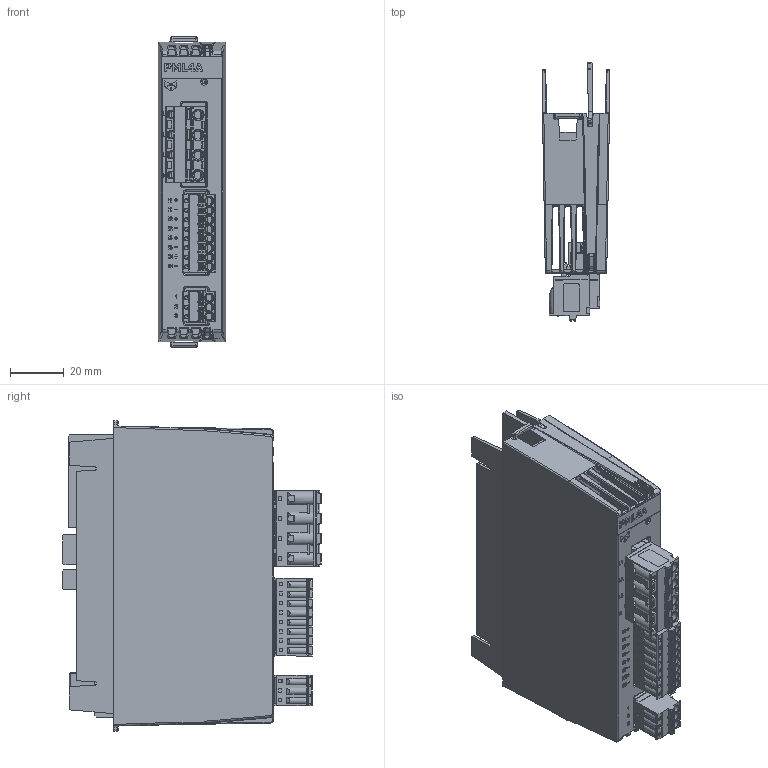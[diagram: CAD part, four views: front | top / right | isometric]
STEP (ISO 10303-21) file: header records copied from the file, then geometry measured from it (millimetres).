
FILE_DESCRIPTION(/* description */ (''),/* implementation_level */ '2;1');
FILE_NAME(/* name */ 'C:\Users\Public\Documents\Autodesk\Inventor 2023\PML4A_Simplified.stp',/* time_stamp */ '2024-10-18T22:49:00+02:00',/* author */ ('shoma'),/* organization */ (''),/* preprocessor_version */ 'ST-DEVELOPER v19',/* originating_system */ 'Autodesk Inventor 2023',/* authorisation */ '');
FILE_SCHEMA (('AUTOMOTIVE_DESIGN { 1 0 10303 214 3 1 1 }'));
Products named in the file (1): PML4A_Simplified
Bounding box: 24.95 x 96.19 x 115.5 mm (x, y, z)
Volume: 113438.3 mm3; surface area: 62563 mm2
Topology: 1 solids, 34 shells, 5338 faces, 14350 edges, 9180 vertices
Faces by surface type: plane 3940, cylinder 1009, bspline 217, cone 123, torus 26, sphere 23
Full cylindrical faces by diameter (mm): 0.296 x2, 0.434 x1, 0.457 x2, 1.17 x11, 1.25 x11, 1.3 x11, 1.4 x4, 1.5 x4, 1.6 x7, 2.5 x1, 2.8 x3, 3 x4, 3.1 x11, 4 x4
Entity records: 176775 total; most frequent: CARTESIAN_POINT 36805, ORIENTED_EDGE 28606, DIRECTION 27078, EDGE_CURVE 14303, LINE 11154, VECTOR 11154, VERTEX_POINT 9176, AXIS2_PLACEMENT_3D 7962
